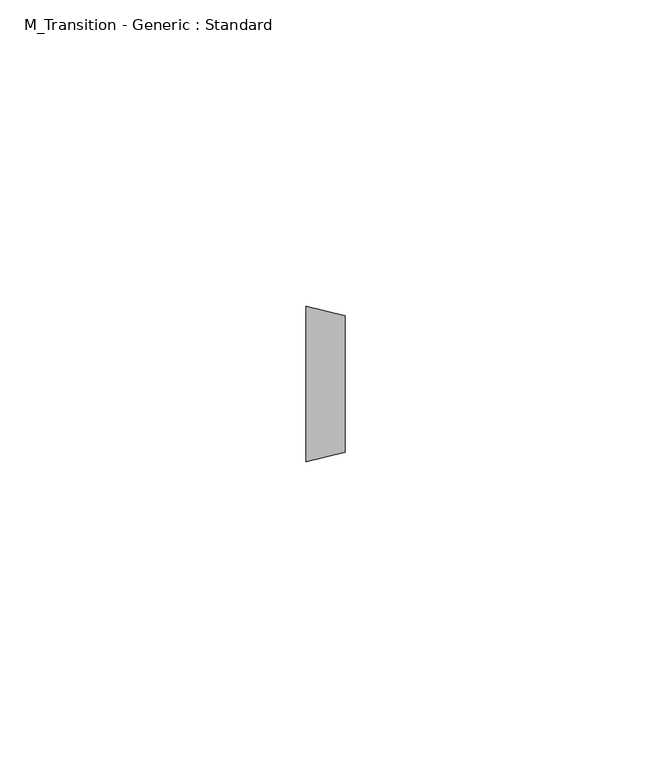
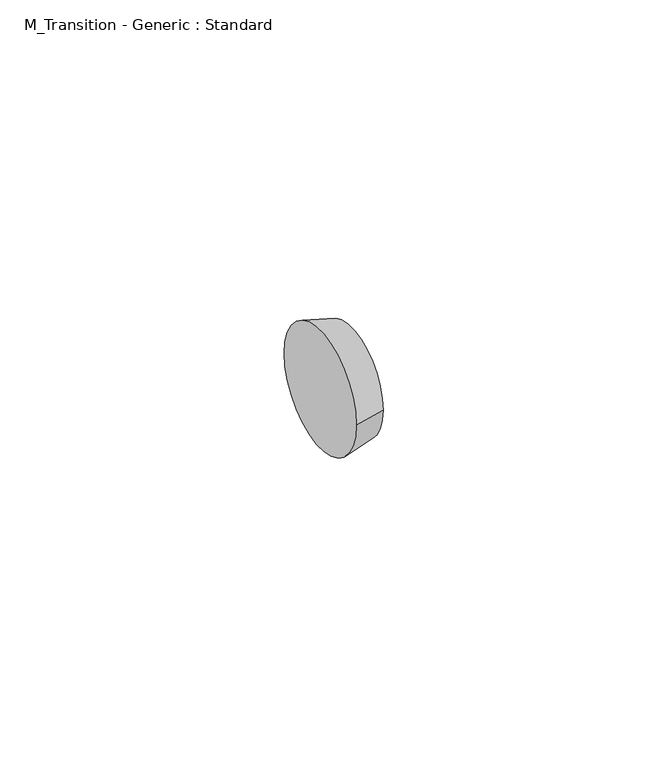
"""IFC4 building model written with IfcOpenShell, lengths in millimetres: pipe fitting geometry, M_Transition - Generic : Standard."""

import ifcopenshell
import ifcopenshell.guid

model = None  # the IFC model being written
_history = None  # IfcOwnerHistory: only IFC2X3 demands one
_inside = {}  # id of a spatial element -> (the spatial element, [elements in it])
_under = {}  # id of a project, library or spatial element -> (it, [spatial elements below it])
_declared = {}  # id of a project -> (the project, [libraries it declares])
_typed = {}  # id of a type object -> (the type object, [elements of that type])
_made_of = {}  # id of a material, layer set ... -> (it, [elements and type objects made of it])


def new_model(schema):
    """Start an empty IFC model of exactly this schema.

    Asked for "IFC4X3", IfcOpenShell would pick the latest addendum, in which some entities
    have other attributes; the version numbers below select the first issue.
    IFC2X3 requires an IfcOwnerHistory on every rooted entity: one is made here for all.
    """
    global model, _history
    if schema == "IFC4X3":
        model = ifcopenshell.file(schema_version=(4, 3, 0, 0))
    else:
        model = ifcopenshell.file(schema=schema)
    _inside.clear()
    _under.clear()
    _declared.clear()
    _typed.clear()
    _made_of.clear()
    _history = None
    if model.schema == "IFC2X3":
        org = make("IfcOrganization", Name="unknown")
        user = make(
            "IfcPersonAndOrganization",
            ThePerson=make("IfcPerson", FamilyName="unknown"),
            TheOrganization=org,
        )
        app = make(
            "IfcApplication",
            ApplicationDeveloper=org,
            Version="unknown",
            ApplicationFullName="unknown",
            ApplicationIdentifier="unknown",
        )
        _history = make(
            "IfcOwnerHistory",
            OwningUser=user,
            OwningApplication=app,
            ChangeAction="ADDED",
            CreationDate=0,
        )
    return model


def make(cls, **values):
    """One entity of the class cls with the attributes given. An attribute that is None is left unset."""
    return model.create_entity(
        cls, **{name: value for name, value in values.items() if value is not None}
    )


def rooted(cls, **values):
    """An entity with a GlobalId (a new one), such as an element, a storey or a relation."""
    return make(cls, GlobalId=ifcopenshell.guid.new(), OwnerHistory=_history, **values)


def si_unit(unit_type, name, prefix=None):
    """IfcSIUnit, for example si_unit("LENGTHUNIT", "METRE", prefix="MILLI")."""
    return make("IfcSIUnit", UnitType=unit_type, Prefix=prefix, Name=name)


def assignment(units):
    """IfcUnitAssignment: the units of a project."""
    return None if units is None else make("IfcUnitAssignment", Units=units)


def point(xyz):
    """IfcCartesianPoint."""
    return None if xyz is None else make("IfcCartesianPoint", Coordinates=xyz)


def direction(xyz):
    """IfcDirection."""
    return None if xyz is None else make("IfcDirection", DirectionRatios=xyz)


def frame(location, z_axis=None, x_axis=None):
    """IfcAxis2Placement3D, a coordinate frame: its origin and axes. An axis left out is left unset."""
    return make(
        "IfcAxis2Placement3D",
        Location=point(location),
        Axis=direction(z_axis),
        RefDirection=direction(x_axis),
    )


def origin():
    """The frame at (0, 0, 0) with its axes left unset."""
    return frame((0.0, 0.0, 0.0))


def place(relative_to, where):
    """IfcLocalPlacement: puts the frame where relative to a parent placement (None: the world)."""
    return make(
        "IfcLocalPlacement", PlacementRelTo=relative_to, RelativePlacement=where
    )


def context(
    kind, dimensions, precision=None, world=None, true_north=None, identifier=None
):
    """IfcGeometricRepresentationContext, for example the 3D "Model" context."""
    return make(
        "IfcGeometricRepresentationContext",
        ContextIdentifier=identifier,
        ContextType=kind,
        CoordinateSpaceDimension=dimensions,
        Precision=precision,
        WorldCoordinateSystem=world,
        TrueNorth=true_north,
    )


def project(units=None, contexts=None):
    """IfcProject with its units and contexts."""
    return rooted(
        "IfcProject",
        Name="project",
        RepresentationContexts=contexts,
        UnitsInContext=assignment(units),
    )


def spatial(cls, under=None, at=None, **own):
    """A site, building, storey or space (cls), placed at a placement, below another one or the project."""
    s = rooted(cls, ObjectPlacement=at, **own)
    if under is not None:
        _under.setdefault(under.id(), (under, []))[1].append(s)
    return s


def polyline(points):
    """IfcPolyline through the points."""
    return make("IfcPolyline", Points=[point(p) for p in points])


def circle_curve(where, radius):
    """IfcCircle in the frame where."""
    return make("IfcCircle", Position=where, Radius=radius)


def shape(context_of_items, identifier, shape_type, items):
    """IfcShapeRepresentation: the items that make up one representation, for example the "Body"."""
    return make(
        "IfcShapeRepresentation",
        ContextOfItems=context_of_items,
        RepresentationIdentifier=identifier,
        RepresentationType=shape_type,
        Items=items,
    )


def source(mapping_origin, context_of_items, identifier, shape_type, items):
    """IfcRepresentationMap: a shape defined once, which mapped items show again and again."""
    return make(
        "IfcRepresentationMap",
        MappingOrigin=mapping_origin,
        MappedRepresentation=shape(context_of_items, identifier, shape_type, items),
    )


def transform(
    local_origin,
    x_axis=None,
    y_axis=None,
    z_axis=None,
    scale=None,
    scale2=None,
    scale3=None,
    uniform=True,
):
    """IfcCartesianTransformationOperator3D, or its non-uniform kind. x_axis, y_axis, z_axis: its Axis1, 2, 3."""
    if uniform:
        return make(
            "IfcCartesianTransformationOperator3D",
            Axis1=direction(x_axis),
            Axis2=direction(y_axis),
            LocalOrigin=point(local_origin),
            Scale=scale,
            Axis3=direction(z_axis),
        )
    return make(
        "IfcCartesianTransformationOperator3DnonUniform",
        Axis1=direction(x_axis),
        Axis2=direction(y_axis),
        LocalOrigin=point(local_origin),
        Scale=scale,
        Axis3=direction(z_axis),
        Scale2=scale2,
        Scale3=scale3,
    )


def mapped(mapping_source, mapping_target):
    """IfcMappedItem: shows the shape of a source again, moved by a transform."""
    return make(
        "IfcMappedItem", MappingSource=mapping_source, MappingTarget=mapping_target
    )


def made_of(thing, what):
    """Note that an element or type object is made of a material, layer set ...; save() writes the relation."""
    if what is not None:
        _made_of.setdefault(what.id(), (what, []))[1].append(thing)
    return thing


def element(
    cls,
    number,
    at=None,
    inside=None,
    cuts=None,
    type_object=None,
    material=None,
    context=None,
    identifier="Body",
    shape_type=None,
    held_by="IfcProductDefinitionShape",
    body=None,
    shapes=None,
    **own,
):
    """One element of the class cls, such as IfcWall. Its Tag is "e" and its number.

    at: its placement. inside: the storey or other place that contains it. cuts: it is an
    opening in that element (IfcRelVoidsElement). A single representation is given by context,
    identifier, shape_type and body (its items); several are given by shapes. held_by: the class
    of the entity that holds the representations. save() writes the other relations.
    """
    e = rooted(cls, Tag="e%d" % number, ObjectPlacement=at, **own)
    if body is not None:
        shapes = [shape(context, identifier, shape_type, body)]
    if shapes is not None:
        e.Representation = make(held_by, Representations=shapes)
    if inside is not None:
        _inside.setdefault(inside.id(), (inside, []))[1].append(e)
    if cuts is not None:
        rooted(
            "IfcRelVoidsElement", RelatingBuildingElement=cuts, RelatedOpeningElement=e
        )
    if type_object is not None:
        _typed.setdefault(type_object.id(), (type_object, []))[1].append(e)
    return made_of(e, material)


def aggregate(whole, parts):
    """IfcRelAggregates: a whole, such as a stair, and the parts it consists of."""
    return rooted("IfcRelAggregates", RelatingObject=whole, RelatedObjects=parts)


def save(model, path):
    """Write the relations noted so far, then the file.

    IfcRelAggregates (storeys below a building ...), IfcRelContainedInSpatialStructure (elements
    in a storey), IfcRelDefinesByType, IfcRelAssociatesMaterial and IfcRelDeclares: one each for
    every whole, place, type object, material and project.
    """
    for whole, parts in _under.values():
        aggregate(whole, parts)
    for where, things in _inside.values():
        rooted(
            "IfcRelContainedInSpatialStructure",
            RelatedElements=things,
            RelatingStructure=where,
        )
    for kind, things in _typed.values():
        rooted("IfcRelDefinesByType", RelatedObjects=things, RelatingType=kind)
    for what, things in _made_of.values():
        rooted("IfcRelAssociatesMaterial", RelatedObjects=things, RelatingMaterial=what)
    for by, libraries in _declared.values():
        rooted("IfcRelDeclares", RelatingContext=by, RelatedDefinitions=libraries)
    model.write(path)


def plane_surface(at):
    """IfcPlane: the flat surface through the origin of the frame at, square to its z axis."""
    return make("IfcPlane", Position=at)


def revolved_surface(curve, axis_point, axis_direction):
    """IfcSurfaceOfRevolution: the curve turned about the line through axis_point along axis_direction."""
    return make(
        "IfcSurfaceOfRevolution",
        SweptCurve=make("IfcArbitraryOpenProfileDef", ProfileType="CURVE", Curve=curve),
        AxisPosition=make("IfcAxis1Placement", Location=point(axis_point), Axis=direction(axis_direction)),
    )


def advanced_brep(points, edges, surfaces, faces):
    """IfcAdvancedBrep: a solid bounded by faces that lie on surfaces and meet in shared edges.

    An edge is (start, end): straight between two places in points (the first is 0);
    or (start, end, curve); or (start, end, curve, False) where it runs against its curve.
    A face is (place in surfaces, loops), or (place, loops, False) where it looks against
    its surface's normal. A loop lists edges by number (the first is 1), with a minus sign
    where the edge is run from its end to its start. The first loop is the outer one.
    """
    corners = [point(p) for p in points]
    vertices = [make("IfcVertexPoint", VertexGeometry=c) for c in corners]
    made = []
    for start, end, *more in edges:
        made.append(
            make(
                "IfcEdgeCurve",
                EdgeStart=vertices[start],
                EdgeEnd=vertices[end],
                EdgeGeometry=more[0] if more else make("IfcPolyline", Points=[corners[start], corners[end]]),
                SameSense=more[1] if len(more) > 1 else True,
            )
        )
    hull = []
    for where, loops, *sense in faces:
        bounds = []
        for j, loop in enumerate(loops):
            ring = [make("IfcOrientedEdge", EdgeElement=made[abs(k) - 1], Orientation=k > 0) for k in loop]
            bounds.append(
                make(
                    "IfcFaceOuterBound" if j == 0 else "IfcFaceBound",
                    Bound=make("IfcEdgeLoop", EdgeList=ring),
                    Orientation=True,
                )
            )
        hull.append(make("IfcAdvancedFace", Bounds=bounds, FaceSurface=surfaces[where], SameSense=sense[0] if sense else True))
    return make("IfcAdvancedBrep", Outer=make("IfcClosedShell", CfsFaces=hull))


def m_transition_generic_standard_2351da66(model_context):
    return source(origin(), model_context, "Body", "AdvancedBrep", [
        advanced_brep(
        [(6.35, -11.1125, 0.0), (6.35, 11.1125, 0.0), (0.0, -12.7, 0.0), (0.0, 12.7, 0.0)],
        [
            (0, 1, circle_curve(frame((6.35, 0.0, 0.0), z_axis=(1.0, 0.0, 0.0), x_axis=(0.0, -1.0, 0.0)), 11.1125)),
            (1, 0, circle_curve(frame((6.35, 0.0, 0.0), z_axis=(1.0, 0.0, 0.0), x_axis=(0.0, 1.0, 0.0)), 11.1125)),
            (2, 3, circle_curve(frame((0.0, 0.0, 0.0), z_axis=(-1.0, 0.0, 0.0), x_axis=(0.0, 1.0, 0.0)), 12.7)),
            (3, 2, circle_curve(frame((0.0, 0.0, 0.0), z_axis=(-1.0, 0.0, 0.0), x_axis=(0.0, -1.0, 0.0)), 12.7)),
            (3, 1),
            (0, 2),
        ],
        [
            plane_surface(frame((6.35, 0.0, 0.0), z_axis=(1.0, 0.0, 0.0), x_axis=(0.0, 0.0, -1.0))),
            plane_surface(frame((0.0, 0.0, 0.0), z_axis=(-1.0, 0.0, 0.0), x_axis=(0.0, 0.0, -1.0))),
            revolved_surface(polyline([(6.350000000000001, -11.112499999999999, 0.0), (0.0, -12.7, 0.0)]), (50.8, 0.0, 0.0), (-1.0, 0.0, 0.0)),
            revolved_surface(polyline([(6.350000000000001, 11.112499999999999, 0.0), (0.0, 12.7, 0.0)]), (50.8, 0.0, 0.0), (-1.0, 0.0, 0.0)),
        ],
        [
            (0, [[1, 2]]),
            (1, [[3, 4]]),
            (2, [[-4, 5, -1, 6]]),
            (3, [[-3, -6, -2, -5]]),
        ],
    ),
    ])


if __name__ == "__main__":
    model = new_model("IFC4")
    model_context = context("Model", 3, world=origin())
    ifc_project = project(units=[si_unit("LENGTHUNIT", "METRE", prefix="MILLI")], contexts=[model_context])
    site = spatial("IfcSite", under=ifc_project)
    building = spatial("IfcBuilding", under=site)
    placement = place(None, origin())
    m_transition_generic_standard_shape = m_transition_generic_standard_2351da66(model_context)
    element("IfcPipeFitting", 1, ObjectType="M_Transition - Generic : Standard", at=placement, inside=building, context=model_context, shape_type="MappedRepresentation", body=[
        mapped(m_transition_generic_standard_shape, transform((0.0, 0.0, 0.0), x_axis=(1.0, 0.0, 0.0), y_axis=(0.0, 1.0, 0.0), z_axis=(0.0, 0.0, 1.0))),
    ])
    save(model, "model.ifc")
